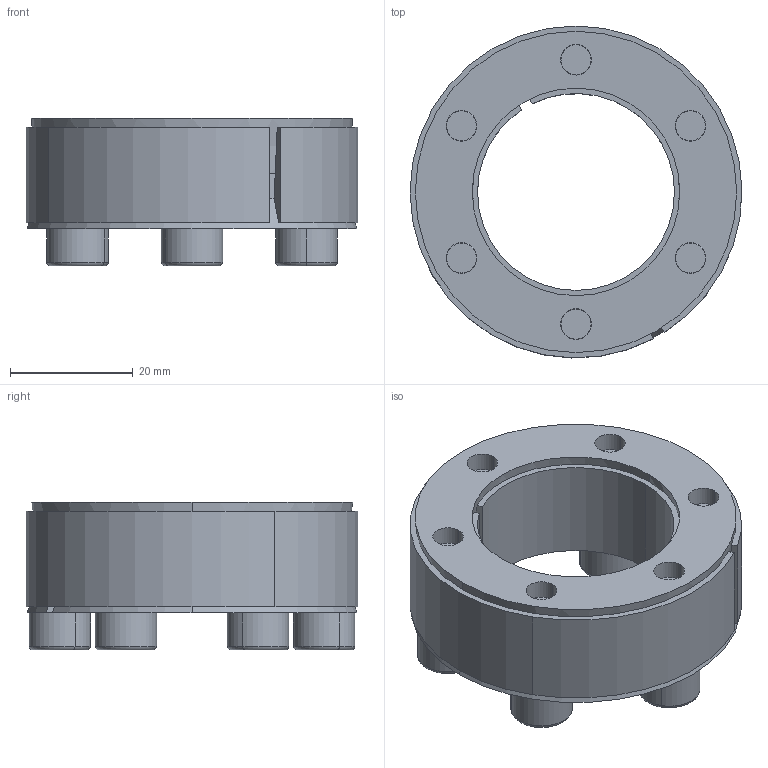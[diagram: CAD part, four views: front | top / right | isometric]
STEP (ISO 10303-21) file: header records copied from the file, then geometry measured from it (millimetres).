
FILE_DESCRIPTION (( 'STEP AP214' ), '1' );
FILE_NAME ('CONEX-L-32x54.step', '2013-04-06T13:22:35', ( 'Pc' ), ( '' ), 'SwSTEP 2.0', 'SolidWorks 2013', '' );
FILE_SCHEMA (( 'AUTOMOTIVE_DESIGN' ));
Length unit declared in the file: millimetre
Products named in the file (1): CONEX-L-32x54
Bounding box: 53.97 x 53.96 x 24.01 mm (x, y, z)
Volume: 24749.2 mm3; surface area: 21359.5 mm2
Topology: 9 solids, 9 shells, 223 faces, 511 edges, 306 vertices
Faces by surface type: plane 101, cylinder 58, cone 40, torus 24
Entity records: 8830 total; most frequent: DIRECTION 1180, CARTESIAN_POINT 1062, ORIENTED_EDGE 998, EDGE_CURVE 499, AXIS2_PLACEMENT_3D 465, VERTEX_POINT 306, EDGE_LOOP 265, VECTOR 250
